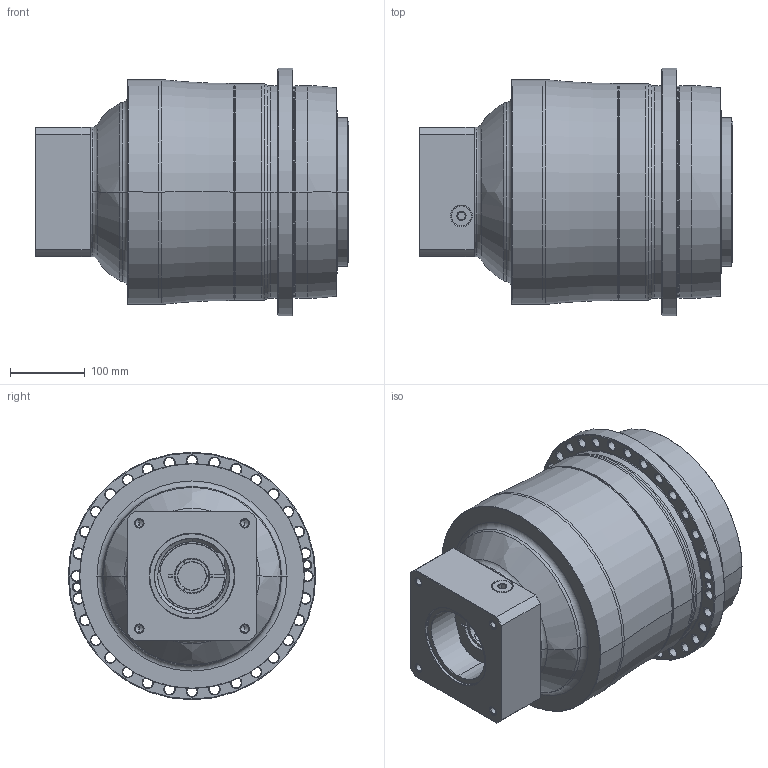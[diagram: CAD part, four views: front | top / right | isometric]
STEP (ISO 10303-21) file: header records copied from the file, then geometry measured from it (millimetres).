
FILE_DESCRIPTION((''),'2;1');
FILE_NAME('AP285_3ST_38-P0409910201_ASM','2018-06-07T',('d01226'),(''),'PRO/ENGINEER BY PARAMETRIC TECHNOLOGY CORPORATION, 2008410','PRO/ENGINEER BY PARAMETRIC TECHNOLOGY CORPORATION, 2008410','');
FILE_SCHEMA(('CONFIG_CONTROL_DESIGN'));
Length unit declared in the file: millimetre
Products named in the file (9): P0278801003; P0359801103; P1366800201; P0503900012; P0912652001; P1211800001; P0409910201; 21711422019; AP285_3ST_38-P0409910201_ASM
Assembly tree (8 placements, depth 2):
  AP285_3ST_38-P0409910201_ASM
    P0278801003
    P0359801103
    P1366800201
    P0503900012
    P0912652001
    P1211800001
    P0409910201
    21711422019
Bounding box: 420.5 x 332 x 332 mm (x, y, z)
Volume: 22533480.3 mm3; surface area: 1034969.1 mm2
Topology: 9 solids, 32 shells, 673 faces, 1558 edges, 946 vertices
Faces by surface type: cylinder 266, cone 218, plane 98, torus 75, bspline 16
Entity records: 24203 total; most frequent: CARTESIAN_POINT 8062, DIRECTION 3719, ORIENTED_EDGE 3006, AXIS2_PLACEMENT_3D 1585, EDGE_CURVE 1550, VERTEX_POINT 946, CIRCLE 899, EDGE_LOOP 830
